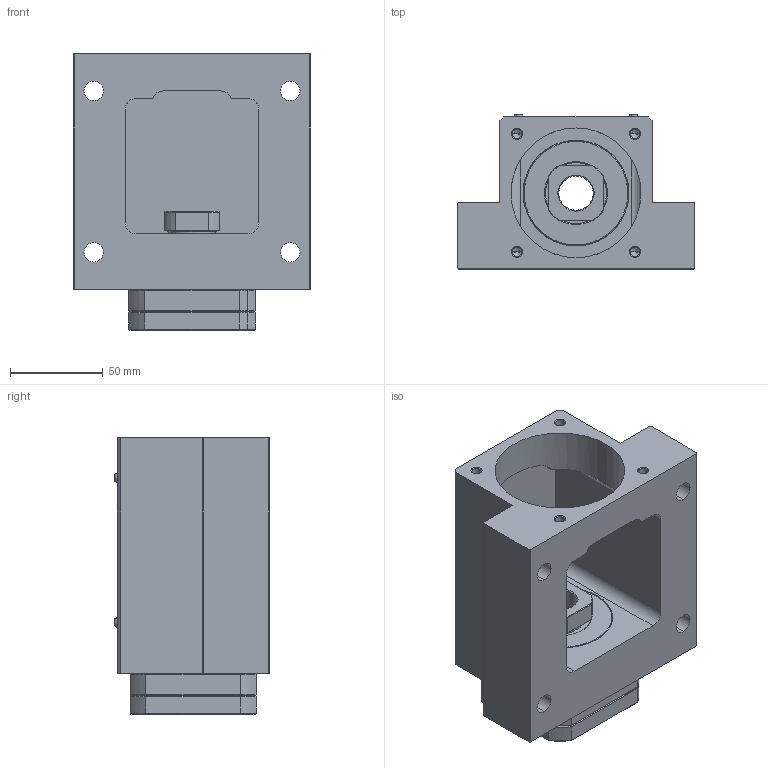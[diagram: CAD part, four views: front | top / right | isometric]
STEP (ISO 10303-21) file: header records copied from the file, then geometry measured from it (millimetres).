
FILE_DESCRIPTION (( 'STEP AP214' ), '1' );
FILE_NAME ('C-SBU-20-80.6.STEP', '2023-04-10T06:18:07', ( '' ), ( '' ), 'SwSTEP 2.0', 'SolidWorks 2021', '' );
FILE_SCHEMA (( 'AUTOMOTIVE_DESIGN' ));
Length unit declared in the file: millimetre
Products named in the file (6): M3-6; socket head cap screw_ks_KS 1003 - M6 x 20 x 20-N; C-SBU-20-80.6; FK20-B; SBU-20-80.6 ACRYLE; SJU-20-M80 HOUSING
Assembly tree (11 placements, depth 2):
  C-SBU-20-80.6
    SJU-20-M80 HOUSING
    FK20-B
    socket head cap screw_ks_KS 1003 - M6 x 20 x 20-N  x4
    SBU-20-80.6 ACRYLE
    M3-6  x4
Bounding box: 128 x 83.15 x 149 mm (x, y, z)
Volume: 600353.6 mm3; surface area: 144457.3 mm2
Topology: 11 solids, 22 shells, 824 faces, 1901 edges, 1121 vertices
Faces by surface type: plane 298, cylinder 223, cone 223, torus 80
Entity records: 19418 total; most frequent: CARTESIAN_POINT 3576, DIRECTION 3508, ORIENTED_EDGE 2982, EDGE_CURVE 1491, AXIS2_PLACEMENT_3D 1413, VERTEX_POINT 911, EDGE_LOOP 754, CIRCLE 743
